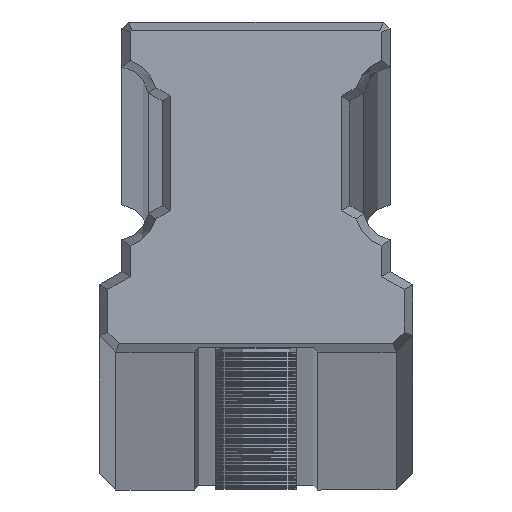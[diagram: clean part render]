
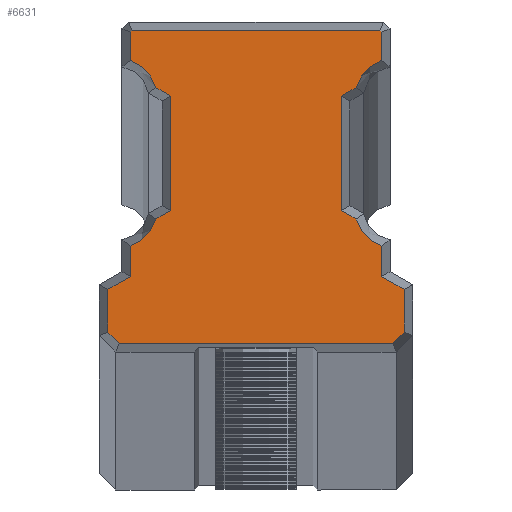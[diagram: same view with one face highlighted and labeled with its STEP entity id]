
A CAD part, top view. The second image highlights one B-rep face of the part: STEP entity #6631.
In plain terms, the highlighted planar face has unit normal (0, 0, 1).
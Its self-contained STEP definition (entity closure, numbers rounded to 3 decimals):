
#909=DIRECTION('',(1.,0.,0.));
#910=VECTOR('',#909,20.089);
#911=CARTESIAN_POINT('',(-10.044,0.617,0.));
#912=LINE('',#911,#910);
#913=DIRECTION('',(0.707,-0.707,0.));
#914=VECTOR('',#913,1.186);
#915=CARTESIAN_POINT('',(-10.883,1.456,0.));
#916=LINE('',#915,#914);
#917=DIRECTION('',(0.,-1.,0.));
#918=VECTOR('',#917,3.135);
#919=CARTESIAN_POINT('',(-10.883,4.591,0.));
#920=LINE('',#919,#918);
#921=DIRECTION('',(-0.866,-0.5,0.));
#922=VECTOR('',#921,1.905);
#923=CARTESIAN_POINT('',(-9.233,5.544,0.));
#924=LINE('',#923,#922);
#925=DIRECTION('',(0.,-1.,0.));
#926=VECTOR('',#925,2.231);
#927=CARTESIAN_POINT('',(-9.233,7.774,0.));
#928=LINE('',#927,#926);
#929=CARTESIAN_POINT('',(-10.3,10.65,0.));
#930=DIRECTION('',(0.,0.,-1.));
#931=DIRECTION('',(0.958,-0.287,0.));
#932=AXIS2_PLACEMENT_3D('',#929,#930,#931);
#934=DIRECTION('',(-0.866,-0.5,0.));
#935=VECTOR('',#934,1.246);
#936=CARTESIAN_POINT('',(-6.283,10.394,0.));
#937=LINE('',#936,#935);
#938=DIRECTION('',(0.,-1.,0.));
#939=VECTOR('',#938,8.413);
#940=CARTESIAN_POINT('',(-6.283,18.806,0.));
#941=LINE('',#940,#939);
#942=DIRECTION('',(0.866,-0.5,0.));
#943=VECTOR('',#942,1.246);
#944=CARTESIAN_POINT('',(-7.362,19.429,0.));
#945=LINE('',#944,#943);
#946=CARTESIAN_POINT('',(-10.3,18.55,0.));
#947=DIRECTION('',(0.,0.,-1.));
#948=DIRECTION('',(0.348,0.938,0.));
#949=AXIS2_PLACEMENT_3D('',#946,#947,#948);
#951=DIRECTION('',(0.,-1.,0.));
#952=VECTOR('',#951,2.074);
#953=CARTESIAN_POINT('',(-9.233,23.499,0.));
#954=LINE('',#953,#952);
#955=DIRECTION('',(-0.707,-0.707,0.));
#956=VECTOR('',#955,0.189);
#957=CARTESIAN_POINT('',(-9.099,23.633,0.));
#958=LINE('',#957,#956);
#959=DIRECTION('',(-1.,0.,0.));
#960=VECTOR('',#959,18.199);
#961=CARTESIAN_POINT('',(9.099,23.633,0.));
#962=LINE('',#961,#960);
#963=DIRECTION('',(-0.707,0.707,0.));
#964=VECTOR('',#963,0.189);
#965=CARTESIAN_POINT('',(9.233,23.499,0.));
#966=LINE('',#965,#964);
#967=DIRECTION('',(0.,1.,0.));
#968=VECTOR('',#967,2.074);
#969=CARTESIAN_POINT('',(9.233,21.426,0.));
#970=LINE('',#969,#968);
#971=CARTESIAN_POINT('',(10.3,18.55,0.));
#972=DIRECTION('',(0.,0.,-1.));
#973=DIRECTION('',(-0.958,0.287,0.));
#974=AXIS2_PLACEMENT_3D('',#971,#972,#973);
#976=DIRECTION('',(0.866,0.5,0.));
#977=VECTOR('',#976,1.246);
#978=CARTESIAN_POINT('',(6.283,18.806,0.));
#979=LINE('',#978,#977);
#980=DIRECTION('',(0.,1.,0.));
#981=VECTOR('',#980,8.413);
#982=CARTESIAN_POINT('',(6.283,10.394,0.));
#983=LINE('',#982,#981);
#984=DIRECTION('',(-0.866,0.5,0.));
#985=VECTOR('',#984,1.246);
#986=CARTESIAN_POINT('',(7.362,9.771,0.));
#987=LINE('',#986,#985);
#988=CARTESIAN_POINT('',(10.3,10.65,0.));
#989=DIRECTION('',(0.,0.,-1.));
#990=DIRECTION('',(-0.348,-0.938,0.));
#991=AXIS2_PLACEMENT_3D('',#988,#989,#990);
#993=DIRECTION('',(0.,1.,0.));
#994=VECTOR('',#993,2.231);
#995=CARTESIAN_POINT('',(9.233,5.544,0.));
#996=LINE('',#995,#994);
#997=DIRECTION('',(-0.866,0.5,0.));
#998=VECTOR('',#997,1.905);
#999=CARTESIAN_POINT('',(10.883,4.591,0.));
#1000=LINE('',#999,#998);
#1001=DIRECTION('',(0.,1.,0.));
#1002=VECTOR('',#1001,3.135);
#1003=CARTESIAN_POINT('',(10.883,1.456,0.));
#1004=LINE('',#1003,#1002);
#1005=DIRECTION('',(0.707,0.707,0.));
#1006=VECTOR('',#1005,1.186);
#1007=CARTESIAN_POINT('',(10.044,0.617,0.));
#1008=LINE('',#1007,#1006);
#4725=CARTESIAN_POINT('',(-10.044,0.617,0.));
#4726=CARTESIAN_POINT('',(10.044,0.617,0.));
#4727=VERTEX_POINT('',#4725);
#4728=VERTEX_POINT('',#4726);
#4729=CARTESIAN_POINT('',(10.883,1.456,0.));
#4730=VERTEX_POINT('',#4729);
#4731=CARTESIAN_POINT('',(10.883,4.591,0.));
#4732=VERTEX_POINT('',#4731);
#4733=CARTESIAN_POINT('',(9.233,5.544,0.));
#4734=VERTEX_POINT('',#4733);
#4735=CARTESIAN_POINT('',(9.233,7.774,0.));
#4736=VERTEX_POINT('',#4735);
#4737=CARTESIAN_POINT('',(7.362,9.771,0.));
#4738=VERTEX_POINT('',#4737);
#4739=CARTESIAN_POINT('',(6.283,10.394,0.));
#4740=VERTEX_POINT('',#4739);
#4741=CARTESIAN_POINT('',(6.283,18.806,0.));
#4742=VERTEX_POINT('',#4741);
#4743=CARTESIAN_POINT('',(7.362,19.429,0.));
#4744=VERTEX_POINT('',#4743);
#4745=CARTESIAN_POINT('',(9.233,21.426,0.));
#4746=VERTEX_POINT('',#4745);
#4747=CARTESIAN_POINT('',(9.233,23.499,0.));
#4748=VERTEX_POINT('',#4747);
#4749=CARTESIAN_POINT('',(9.099,23.633,0.));
#4750=VERTEX_POINT('',#4749);
#4751=CARTESIAN_POINT('',(-9.099,23.633,0.));
#4752=VERTEX_POINT('',#4751);
#4753=CARTESIAN_POINT('',(-9.233,23.499,0.));
#4754=VERTEX_POINT('',#4753);
#4755=CARTESIAN_POINT('',(-9.233,21.426,0.));
#4756=VERTEX_POINT('',#4755);
#4757=CARTESIAN_POINT('',(-7.362,19.429,0.));
#4758=VERTEX_POINT('',#4757);
#4759=CARTESIAN_POINT('',(-6.283,18.806,0.));
#4760=VERTEX_POINT('',#4759);
#4761=CARTESIAN_POINT('',(-6.283,10.394,0.));
#4762=VERTEX_POINT('',#4761);
#4763=CARTESIAN_POINT('',(-7.362,9.771,0.));
#4764=VERTEX_POINT('',#4763);
#4765=CARTESIAN_POINT('',(-9.233,7.774,0.));
#4766=VERTEX_POINT('',#4765);
#4767=CARTESIAN_POINT('',(-9.233,5.544,0.));
#4768=VERTEX_POINT('',#4767);
#4769=CARTESIAN_POINT('',(-10.883,4.591,0.));
#4770=VERTEX_POINT('',#4769);
#4771=CARTESIAN_POINT('',(-10.883,1.456,0.));
#4772=VERTEX_POINT('',#4771);
#6577=CARTESIAN_POINT('',(0.,0.,0.));
#6578=DIRECTION('',(0.,0.,1.));
#6579=DIRECTION('',(1.,0.,0.));
#6580=AXIS2_PLACEMENT_3D('',#6577,#6578,#6579);
#6581=PLANE('',#6580);
#6583=ORIENTED_EDGE('',*,*,#6582,.F.);
#6585=ORIENTED_EDGE('',*,*,#6584,.F.);
#6587=ORIENTED_EDGE('',*,*,#6586,.F.);
#6589=ORIENTED_EDGE('',*,*,#6588,.F.);
#6591=ORIENTED_EDGE('',*,*,#6590,.F.);
#6593=ORIENTED_EDGE('',*,*,#6592,.F.);
#6595=ORIENTED_EDGE('',*,*,#6594,.F.);
#6597=ORIENTED_EDGE('',*,*,#6596,.F.);
#6599=ORIENTED_EDGE('',*,*,#6598,.F.);
#6601=ORIENTED_EDGE('',*,*,#6600,.F.);
#6602=ORIENTED_EDGE('',*,*,#6567,.F.);
#6604=ORIENTED_EDGE('',*,*,#6603,.F.);
#6606=ORIENTED_EDGE('',*,*,#6605,.F.);
#6608=ORIENTED_EDGE('',*,*,#6607,.F.);
#6610=ORIENTED_EDGE('',*,*,#6609,.F.);
#6612=ORIENTED_EDGE('',*,*,#6611,.F.);
#6614=ORIENTED_EDGE('',*,*,#6613,.F.);
#6616=ORIENTED_EDGE('',*,*,#6615,.F.);
#6618=ORIENTED_EDGE('',*,*,#6617,.F.);
#6620=ORIENTED_EDGE('',*,*,#6619,.F.);
#6622=ORIENTED_EDGE('',*,*,#6621,.F.);
#6624=ORIENTED_EDGE('',*,*,#6623,.F.);
#6626=ORIENTED_EDGE('',*,*,#6625,.F.);
#6628=ORIENTED_EDGE('',*,*,#6627,.F.);
#6629=EDGE_LOOP('',(#6583,#6585,#6587,#6589,#6591,#6593,#6595,#6597,#6599,#6601,
#6602,#6604,#6606,#6608,#6610,#6612,#6614,#6616,#6618,#6620,#6622,#6624,#6626,
#6628));
#6630=FACE_OUTER_BOUND('',#6629,.F.);
#933=CIRCLE('',#932,3.067);
#950=CIRCLE('',#949,3.067);
#975=CIRCLE('',#974,3.067);
#992=CIRCLE('',#991,3.067);
#6567=EDGE_CURVE('',#4754,#4756,#954,.T.);
#6582=EDGE_CURVE('',#4727,#4728,#912,.T.);
#6584=EDGE_CURVE('',#4772,#4727,#916,.T.);
#6586=EDGE_CURVE('',#4770,#4772,#920,.T.);
#6588=EDGE_CURVE('',#4768,#4770,#924,.T.);
#6590=EDGE_CURVE('',#4766,#4768,#928,.T.);
#6592=EDGE_CURVE('',#4764,#4766,#933,.T.);
#6594=EDGE_CURVE('',#4762,#4764,#937,.T.);
#6596=EDGE_CURVE('',#4760,#4762,#941,.T.);
#6598=EDGE_CURVE('',#4758,#4760,#945,.T.);
#6600=EDGE_CURVE('',#4756,#4758,#950,.T.);
#6603=EDGE_CURVE('',#4752,#4754,#958,.T.);
#6605=EDGE_CURVE('',#4750,#4752,#962,.T.);
#6607=EDGE_CURVE('',#4748,#4750,#966,.T.);
#6609=EDGE_CURVE('',#4746,#4748,#970,.T.);
#6611=EDGE_CURVE('',#4744,#4746,#975,.T.);
#6613=EDGE_CURVE('',#4742,#4744,#979,.T.);
#6615=EDGE_CURVE('',#4740,#4742,#983,.T.);
#6617=EDGE_CURVE('',#4738,#4740,#987,.T.);
#6619=EDGE_CURVE('',#4736,#4738,#992,.T.);
#6621=EDGE_CURVE('',#4734,#4736,#996,.T.);
#6623=EDGE_CURVE('',#4732,#4734,#1000,.T.);
#6625=EDGE_CURVE('',#4730,#4732,#1004,.T.);
#6627=EDGE_CURVE('',#4728,#4730,#1008,.T.);
#6631=ADVANCED_FACE('',(#6630),#6581,.T.);
